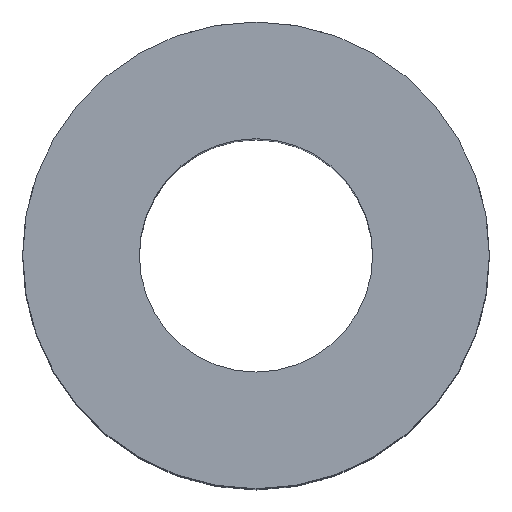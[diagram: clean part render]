
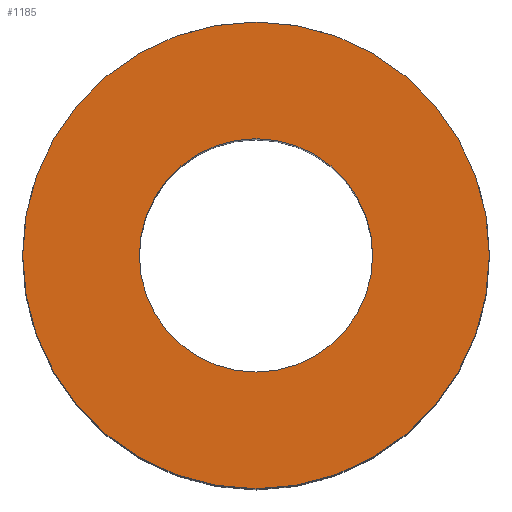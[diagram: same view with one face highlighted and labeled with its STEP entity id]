
A CAD part, top view. The second image highlights one B-rep face of the part: STEP entity #1185.
In plain terms, the highlighted planar face has unit normal (0, 0, 1).
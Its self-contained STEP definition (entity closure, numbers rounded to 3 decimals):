
#51=CARTESIAN_POINT('',(-6.35,0.,19.05));
#52=VERTEX_POINT('',#51);
#68=CARTESIAN_POINT('',(6.35,0.,19.05));
#69=VERTEX_POINT('',#68);
#76=CARTESIAN_POINT('',(0.0,0.0,19.05));
#77=DIRECTION('',(0.0,0.0,-1.0));
#78=DIRECTION('',(-1.0,0.0,0.0));
#79=AXIS2_PLACEMENT_3D('',#76,#77,#78);
#80=CIRCLE('',#79,6.35);
#81=EDGE_CURVE('',#69,#52,#80,.T.);
#91=CARTESIAN_POINT('',(-3.175,0.,19.05));
#92=VERTEX_POINT('',#91);
#101=CARTESIAN_POINT('',(3.175,0.,19.05));
#102=VERTEX_POINT('',#101);
#103=CARTESIAN_POINT('',(0.0,0.0,19.05));
#104=DIRECTION('',(0.0,0.0,-1.0));
#105=DIRECTION('',(-1.0,0.0,0.0));
#106=AXIS2_PLACEMENT_3D('',#103,#104,#105);
#107=CIRCLE('',#106,3.175);
#108=EDGE_CURVE('',#102,#92,#107,.T.);
#1144=CARTESIAN_POINT('',(0.0,0.0,19.05));
#1145=DIRECTION('',(0.0,0.0,-1.0));
#1146=DIRECTION('',(-1.0,0.0,0.0));
#1147=AXIS2_PLACEMENT_3D('',#1144,#1145,#1146);
#1148=CIRCLE('',#1147,3.175);
#1149=EDGE_CURVE('',#92,#102,#1148,.T.);
#1160=CARTESIAN_POINT('',(0.0,0.0,19.05));
#1161=DIRECTION('',(0.0,0.0,-1.0));
#1162=DIRECTION('',(-1.0,0.0,0.0));
#1163=AXIS2_PLACEMENT_3D('',#1160,#1161,#1162);
#1164=CIRCLE('',#1163,6.35);
#1165=EDGE_CURVE('',#52,#69,#1164,.T.);
#1172=CARTESIAN_POINT('',(0.0,0.0,19.05));
#1173=DIRECTION('',(0.0,0.0,-1.0));
#1174=DIRECTION('',(-1.0,0.0,0.0));
#1175=AXIS2_PLACEMENT_3D('',#1172,#1173,#1174);
#1176=PLANE('',#1175);
#1177=ORIENTED_EDGE('',*,*,#81,.F.);
#1178=ORIENTED_EDGE('',*,*,#1165,.F.);
#1179=EDGE_LOOP('',(#1177,#1178));
#1180=FACE_OUTER_BOUND('',#1179,.T.);
#1181=ORIENTED_EDGE('',*,*,#108,.T.);
#1182=ORIENTED_EDGE('',*,*,#1149,.T.);
#1183=EDGE_LOOP('',(#1181,#1182));
#1184=FACE_BOUND('',#1183,.T.);
#1185=ADVANCED_FACE('',(#1180,#1184),#1176,.F.);
